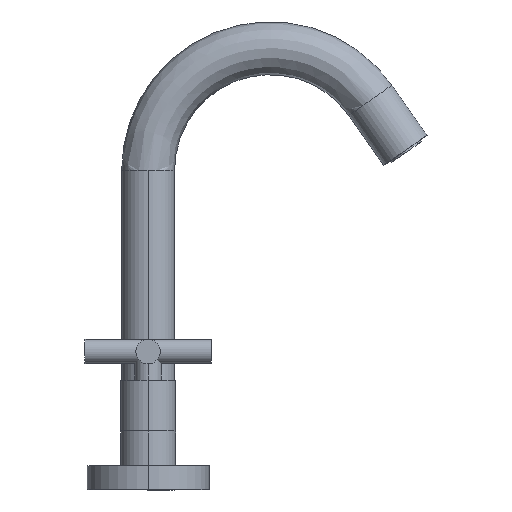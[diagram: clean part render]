
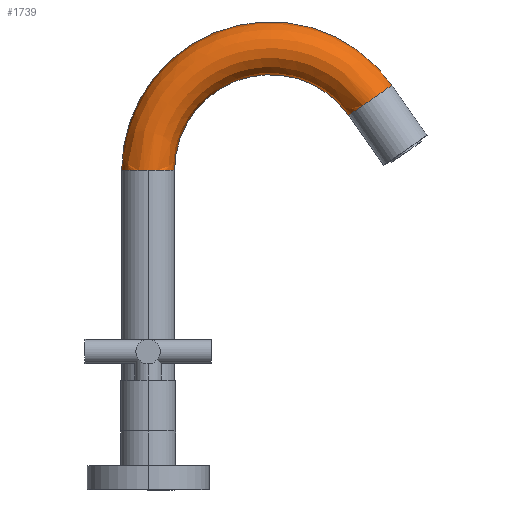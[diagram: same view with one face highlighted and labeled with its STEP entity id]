
A CAD part, left-side view. The second image highlights one B-rep face of the part: STEP entity #1739.
In plain terms, the highlighted free-form (B-spline) face has degree [2, 2] with [5, 5] control points.
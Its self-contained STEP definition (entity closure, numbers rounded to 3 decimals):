
#1629 = VERTEX_POINT('',#1630);
#1630 = CARTESIAN_POINT('',(0.,-13.,157.));
#1637 = EDGE_CURVE('',#1629,#1638,#1640,.T.);
#1638 = VERTEX_POINT('',#1639);
#1639 = CARTESIAN_POINT('',(-13.,0.,157.));
#1640 = CIRCLE('',#1641,13.);
#1641 = AXIS2_PLACEMENT_3D('',#1642,#1643,#1644);
#1642 = CARTESIAN_POINT('',(0.,0.,157.));
#1643 = DIRECTION('',(0.,0.,-1.));
#1644 = DIRECTION('',(1.,0.,0.));
#1662 = EDGE_CURVE('',#1638,#1663,#1665,.T.);
#1663 = VERTEX_POINT('',#1664);
#1664 = CARTESIAN_POINT('',(0.,13.,157.));
#1665 = CIRCLE('',#1666,13.);
#1666 = AXIS2_PLACEMENT_3D('',#1667,#1668,#1669);
#1667 = CARTESIAN_POINT('',(0.,0.,157.));
#1668 = DIRECTION('',(0.,0.,-1.));
#1669 = DIRECTION('',(1.,0.,0.));
#1688 = VERTEX_POINT('',#1689);
#1689 = CARTESIAN_POINT('',(0.,-119.798,
    198.871));
#1690 = VERTEX_POINT('',#1691);
#1691 = CARTESIAN_POINT('',(0.,-98.5,
    183.958));
#1698 = EDGE_CURVE('',#1663,#1688,#1699,.T.);
#1699 = CIRCLE('',#1700,73.);
#1700 = AXIS2_PLACEMENT_3D('',#1701,#1702,#1703);
#1701 = CARTESIAN_POINT('',(0.,-60.,157.));
#1702 = DIRECTION('',(1.,0.,0.));
#1703 = DIRECTION('',(-0.,1.,0.));
#1707 = EDGE_CURVE('',#1690,#1629,#1708,.T.);
#1708 = CIRCLE('',#1709,47.);
#1709 = AXIS2_PLACEMENT_3D('',#1710,#1711,#1712);
#1710 = CARTESIAN_POINT('',(0.,-60.,157.));
#1711 = DIRECTION('',(-1.,0.,0.));
#1712 = DIRECTION('',(0.,1.,0.));
#1739 = ADVANCED_FACE('',(#1740),#1753,.F.);
#1740 = FACE_BOUND('',#1741,.F.);
#1741 = EDGE_LOOP('',(#1742,#1743,#1744,#1745,#1752));
#1742 = ORIENTED_EDGE('',*,*,#1637,.T.);
#1743 = ORIENTED_EDGE('',*,*,#1662,.T.);
#1744 = ORIENTED_EDGE('',*,*,#1698,.T.);
#1745 = ORIENTED_EDGE('',*,*,#1746,.F.);
#1746 = EDGE_CURVE('',#1690,#1688,#1747,.T.);
#1747 = CIRCLE('',#1748,13.);
#1748 = AXIS2_PLACEMENT_3D('',#1749,#1750,#1751);
#1749 = CARTESIAN_POINT('',(0.,-109.149,
    191.415));
#1750 = DIRECTION('',(0.,0.574,0.819)
  );
#1751 = DIRECTION('',(0.,0.819,-0.574)
  );
#1752 = ORIENTED_EDGE('',*,*,#1707,.T.);
#1753 = ( BOUNDED_SURFACE() B_SPLINE_SURFACE(2,2,(
    (#1754,#1755,#1756,#1757,#1758)
    ,(#1759,#1760,#1761,#1762,#1763)
    ,(#1764,#1765,#1766,#1767,#1768)
    ,(#1769,#1770,#1771,#1772,#1773)
    ,(#1774,#1775,#1776,#1777,#1778
)),.UNSPECIFIED.,.F.,.F.,.F.) B_SPLINE_SURFACE_WITH_KNOTS((3,2,3),(3,2,3
    ),(0.,1.571,3.142),(0.,1.265,
2.531),.UNSPECIFIED.) GEOMETRIC_REPRESENTATION_ITEM() 
RATIONAL_B_SPLINE_SURFACE((
    (1.,0.806,1.,0.806,1.)
    ,(0.707,0.57,0.707,0.57
      ,0.707)
    ,(1.,0.806,1.,0.806,1.)
    ,(0.707,0.57,0.707,0.57
      ,0.707)
,(1.,0.806,1.,0.806,1.
))) REPRESENTATION_ITEM('') SURFACE() );
#1754 = CARTESIAN_POINT('',(0.,-13.,157.));
#1755 = CARTESIAN_POINT('',(0.,-13.,191.462));
#1756 = CARTESIAN_POINT('',(0.,-45.867,201.825));
#1757 = CARTESIAN_POINT('',(0.,-78.734,212.188));
#1758 = CARTESIAN_POINT('',(0.,-98.5,183.958));
#1759 = CARTESIAN_POINT('',(-13.,-13.,157.));
#1760 = CARTESIAN_POINT('',(-13.,-13.,191.462));
#1761 = CARTESIAN_POINT('',(-13.,-45.867,201.825));
#1762 = CARTESIAN_POINT('',(-13.,-78.734,212.188));
#1763 = CARTESIAN_POINT('',(-13.,-98.5,183.958));
#1764 = CARTESIAN_POINT('',(-13.,0.,157.));
#1765 = CARTESIAN_POINT('',(-13.,0.,200.994));
#1766 = CARTESIAN_POINT('',(-13.,-41.958,214.223));
#1767 = CARTESIAN_POINT('',(-13.,-83.915,227.452));
#1768 = CARTESIAN_POINT('',(-13.,-109.149,191.415));
#1769 = CARTESIAN_POINT('',(-13.,13.,157.));
#1770 = CARTESIAN_POINT('',(-13.,13.,210.526));
#1771 = CARTESIAN_POINT('',(-13.,-38.048,226.621));
#1772 = CARTESIAN_POINT('',(-13.,-89.097,242.717));
#1773 = CARTESIAN_POINT('',(-13.,-119.798,198.871));
#1774 = CARTESIAN_POINT('',(0.,13.,157.));
#1775 = CARTESIAN_POINT('',(0.,13.,210.526));
#1776 = CARTESIAN_POINT('',(0.,-38.048,
    226.621));
#1777 = CARTESIAN_POINT('',(0.,-89.097,
    242.717));
#1778 = CARTESIAN_POINT('',(0.,-119.798,
    198.871));
